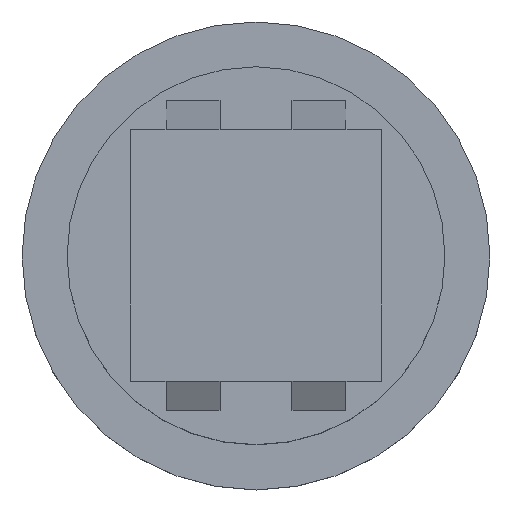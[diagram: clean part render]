
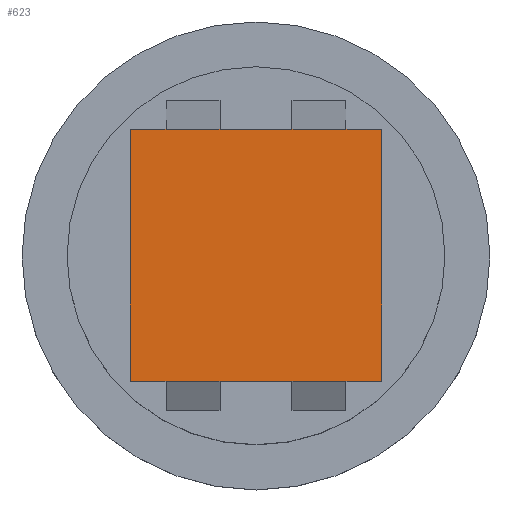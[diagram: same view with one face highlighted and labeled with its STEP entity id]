
A CAD part, top view. The second image highlights one B-rep face of the part: STEP entity #623.
In plain terms, the highlighted planar face has unit normal (0, 0, 1).
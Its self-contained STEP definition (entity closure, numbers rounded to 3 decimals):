
#21=PLANE('',#684);
#56=LINE('',#925,#133);
#58=LINE('',#929,#135);
#59=LINE('',#931,#136);
#60=LINE('',#933,#137);
#61=LINE('',#935,#138);
#62=LINE('',#937,#139);
#63=LINE('',#939,#140);
#64=LINE('',#941,#141);
#65=LINE('',#943,#142);
#66=LINE('',#945,#143);
#67=LINE('',#947,#144);
#68=LINE('',#948,#145);
#133=VECTOR('',#754,10.);
#135=VECTOR('',#758,10.);
#136=VECTOR('',#759,10.);
#137=VECTOR('',#760,10.);
#138=VECTOR('',#761,10.);
#139=VECTOR('',#762,10.);
#140=VECTOR('',#763,10.);
#141=VECTOR('',#764,10.);
#142=VECTOR('',#765,10.);
#143=VECTOR('',#766,10.);
#144=VECTOR('',#767,10.);
#145=VECTOR('',#768,10.);
#216=FACE_OUTER_BOUND('',#256,.T.);
#256=EDGE_LOOP('',(#463,#464,#465,#466,#467,#468,#469,#470,#471,#472,#473,
#474));
#308=VERTEX_POINT('',#922);
#309=VERTEX_POINT('',#924);
#310=VERTEX_POINT('',#928);
#311=VERTEX_POINT('',#930);
#312=VERTEX_POINT('',#932);
#313=VERTEX_POINT('',#934);
#314=VERTEX_POINT('',#936);
#315=VERTEX_POINT('',#938);
#316=VERTEX_POINT('',#940);
#317=VERTEX_POINT('',#942);
#318=VERTEX_POINT('',#944);
#319=VERTEX_POINT('',#946);
#365=EDGE_CURVE('',#309,#308,#56,.T.);
#367=EDGE_CURVE('',#308,#310,#58,.T.);
#368=EDGE_CURVE('',#310,#311,#59,.T.);
#369=EDGE_CURVE('',#311,#312,#60,.T.);
#370=EDGE_CURVE('',#312,#313,#61,.T.);
#371=EDGE_CURVE('',#313,#314,#62,.T.);
#372=EDGE_CURVE('',#314,#315,#63,.T.);
#373=EDGE_CURVE('',#315,#316,#64,.T.);
#374=EDGE_CURVE('',#316,#317,#65,.T.);
#375=EDGE_CURVE('',#317,#318,#66,.T.);
#376=EDGE_CURVE('',#318,#319,#67,.T.);
#377=EDGE_CURVE('',#319,#309,#68,.T.);
#463=ORIENTED_EDGE('',*,*,#365,.T.);
#464=ORIENTED_EDGE('',*,*,#367,.T.);
#465=ORIENTED_EDGE('',*,*,#368,.T.);
#466=ORIENTED_EDGE('',*,*,#369,.T.);
#467=ORIENTED_EDGE('',*,*,#370,.T.);
#468=ORIENTED_EDGE('',*,*,#371,.T.);
#469=ORIENTED_EDGE('',*,*,#372,.T.);
#470=ORIENTED_EDGE('',*,*,#373,.T.);
#471=ORIENTED_EDGE('',*,*,#374,.T.);
#472=ORIENTED_EDGE('',*,*,#375,.T.);
#473=ORIENTED_EDGE('',*,*,#376,.T.);
#474=ORIENTED_EDGE('',*,*,#377,.T.);
#623=ADVANCED_FACE('',(#216),#21,.T.);
#684=AXIS2_PLACEMENT_3D('',#927,#756,#757);
#754=DIRECTION('',(1.,0.,0.));
#756=DIRECTION('center_axis',(0.,0.,1.));
#757=DIRECTION('ref_axis',(1.,0.,0.));
#758=DIRECTION('',(1.,0.,0.));
#759=DIRECTION('',(0.,1.,0.));
#760=DIRECTION('',(-1.,0.,0.));
#761=DIRECTION('',(-1.,0.,0.));
#762=DIRECTION('',(-1.,0.,0.));
#763=DIRECTION('',(-1.,0.,0.));
#764=DIRECTION('',(-1.,0.,0.));
#765=DIRECTION('',(0.,-1.,0.));
#766=DIRECTION('',(1.,0.,0.));
#767=DIRECTION('',(1.,0.,0.));
#768=DIRECTION('',(1.,0.,0.));
#922=CARTESIAN_POINT('',(2.5,-3.5,13.));
#924=CARTESIAN_POINT('',(1.,-3.5,13.));
#925=CARTESIAN_POINT('',(-3.5,-3.5,13.));
#927=CARTESIAN_POINT('Origin',(0.,0.,13.));
#928=CARTESIAN_POINT('',(3.5,-3.5,13.));
#929=CARTESIAN_POINT('',(-3.5,-3.5,13.));
#930=CARTESIAN_POINT('',(3.5,3.5,13.));
#931=CARTESIAN_POINT('',(3.5,-3.5,13.));
#932=CARTESIAN_POINT('',(2.5,3.5,13.));
#933=CARTESIAN_POINT('',(3.5,3.5,13.));
#934=CARTESIAN_POINT('',(1.,3.5,13.));
#935=CARTESIAN_POINT('',(3.5,3.5,13.));
#936=CARTESIAN_POINT('',(-1.,3.5,13.));
#937=CARTESIAN_POINT('',(3.5,3.5,13.));
#938=CARTESIAN_POINT('',(-2.5,3.5,13.));
#939=CARTESIAN_POINT('',(3.5,3.5,13.));
#940=CARTESIAN_POINT('',(-3.5,3.5,13.));
#941=CARTESIAN_POINT('',(3.5,3.5,13.));
#942=CARTESIAN_POINT('',(-3.5,-3.5,13.));
#943=CARTESIAN_POINT('',(-3.5,3.5,13.));
#944=CARTESIAN_POINT('',(-2.5,-3.5,13.));
#945=CARTESIAN_POINT('',(-3.5,-3.5,13.));
#946=CARTESIAN_POINT('',(-1.,-3.5,13.));
#947=CARTESIAN_POINT('',(-3.5,-3.5,13.));
#948=CARTESIAN_POINT('',(-3.5,-3.5,13.));
